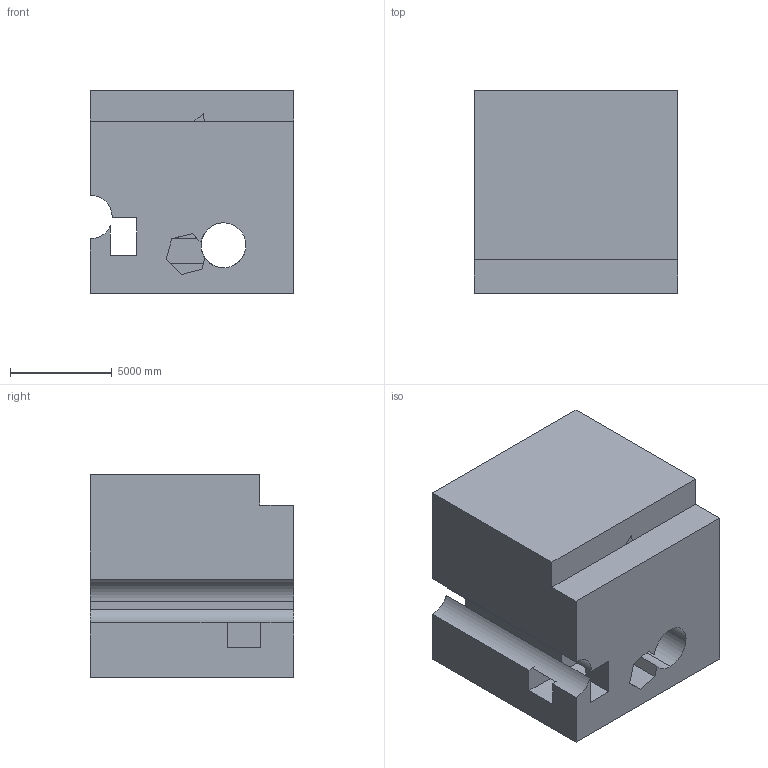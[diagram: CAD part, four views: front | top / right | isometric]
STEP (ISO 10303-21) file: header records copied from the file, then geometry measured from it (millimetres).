
FILE_DESCRIPTION (( 'STEP AP203' ), '1' );
FILE_NAME ('805.STEP', '2022-07-29T13:20:30', ( 'user' ), ( '' ), 'SwSTEP 2.0', 'SolidWorks 2021', '' );
FILE_SCHEMA (( 'CONFIG_CONTROL_DESIGN' ));
Length unit declared in the file: centimetre
Products named in the file (1): 805
Bounding box: 10000 x 10000 x 10000 mm (x, y, z)
Volume: 859504718027.7 mm3; surface area: 809327423.2 mm2
Topology: 1 solids, 1 shells, 53 faces, 159 edges, 106 vertices
Faces by surface type: plane 49, cylinder 4
Entity records: 1862 total; most frequent: CARTESIAN_POINT 319, ORIENTED_EDGE 318, DIRECTION 283, EDGE_CURVE 159, VECTOR 143, LINE 143, VERTEX_POINT 106, AXIS2_PLACEMENT_3D 70
